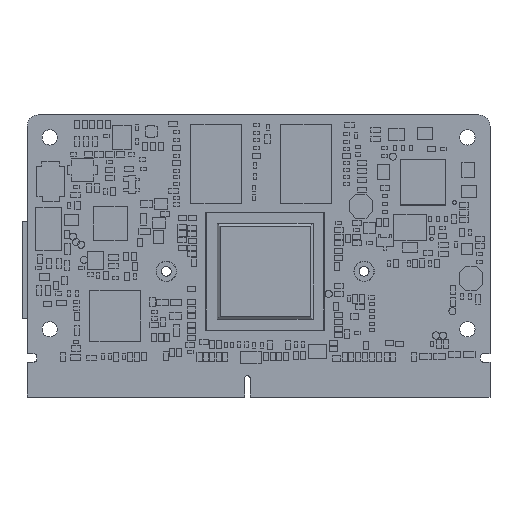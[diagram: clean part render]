
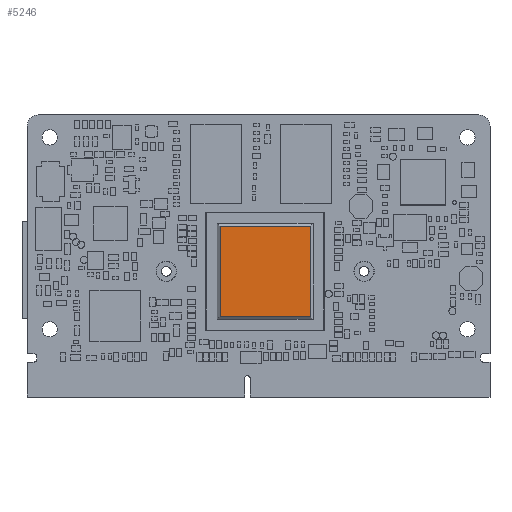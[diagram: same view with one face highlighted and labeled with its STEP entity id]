
A CAD part, top view. The second image highlights one B-rep face of the part: STEP entity #5246.
In plain terms, the highlighted planar face has unit normal (0, 0, 1).
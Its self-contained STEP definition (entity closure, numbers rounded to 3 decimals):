
#4943=DIRECTION('',(0.,1.,0.));
#4944=VECTOR('',#4943,16.);
#4945=CARTESIAN_POINT('',(8.,-8.,1.8));
#4946=LINE('',#4945,#4944);
#4947=DIRECTION('',(1.,0.,0.));
#4948=VECTOR('',#4947,16.);
#4949=CARTESIAN_POINT('',(-8.,-8.,1.8));
#4950=LINE('',#4949,#4948);
#4951=DIRECTION('',(0.,-1.,0.));
#4952=VECTOR('',#4951,16.);
#4953=CARTESIAN_POINT('',(-8.,8.,1.8));
#4954=LINE('',#4953,#4952);
#4955=DIRECTION('',(-1.,0.,0.));
#4956=VECTOR('',#4955,16.);
#4957=CARTESIAN_POINT('',(8.,8.,1.8));
#4958=LINE('',#4957,#4956);
#4995=CARTESIAN_POINT('',(8.,-8.,1.8));
#4996=CARTESIAN_POINT('',(8.,8.,1.8));
#4997=VERTEX_POINT('',#4995);
#4998=VERTEX_POINT('',#4996);
#4999=CARTESIAN_POINT('',(-8.,8.,1.8));
#5000=VERTEX_POINT('',#4999);
#5005=CARTESIAN_POINT('',(-8.,-8.,1.8));
#5006=VERTEX_POINT('',#5005);
#5235=CARTESIAN_POINT('',(0.,0.,1.8));
#5236=DIRECTION('',(0.,0.,1.));
#5237=DIRECTION('',(1.,0.,0.));
#5238=AXIS2_PLACEMENT_3D('',#5235,#5236,#5237);
#5239=PLANE('',#5238);
#5240=ORIENTED_EDGE('',*,*,#5187,.F.);
#5241=ORIENTED_EDGE('',*,*,#5202,.F.);
#5242=ORIENTED_EDGE('',*,*,#5216,.F.);
#5243=ORIENTED_EDGE('',*,*,#5227,.F.);
#5244=EDGE_LOOP('',(#5240,#5241,#5242,#5243));
#5245=FACE_OUTER_BOUND('',#5244,.F.);
#5246=ADVANCED_FACE('',(#5245),#5239,.T.);
#5187=EDGE_CURVE('',#4997,#4998,#4946,.T.);
#5202=EDGE_CURVE('',#5006,#4997,#4950,.T.);
#5216=EDGE_CURVE('',#5000,#5006,#4954,.T.);
#5227=EDGE_CURVE('',#4998,#5000,#4958,.T.);
